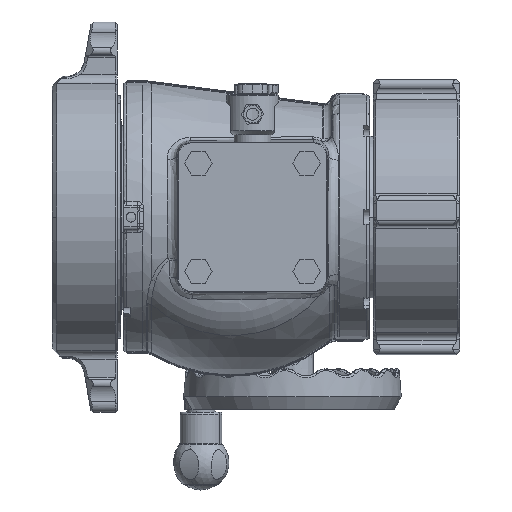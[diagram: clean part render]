
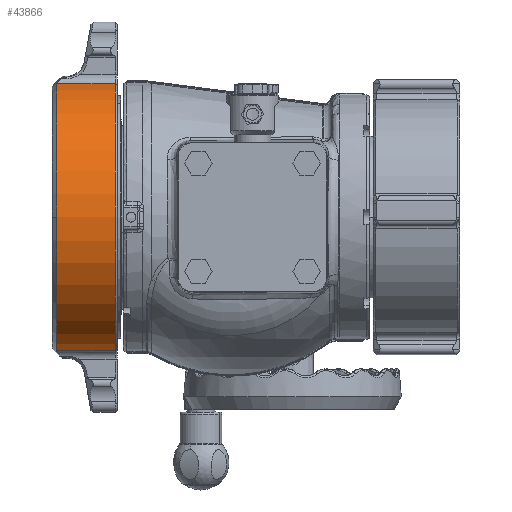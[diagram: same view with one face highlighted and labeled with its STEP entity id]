
A CAD part, front view. The second image highlights one B-rep face of the part: STEP entity #43866.
In plain terms, the highlighted cylindrical face has radius 98.425 mm (diameter 196.85 mm), a partial arc.
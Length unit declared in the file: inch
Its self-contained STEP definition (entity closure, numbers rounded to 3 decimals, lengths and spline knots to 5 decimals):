
#689 = EDGE_LOOP ( 'NONE', ( #72561, #72562, #72564, #72565, #72567 ) ) ;
#7265 = AXIS2_PLACEMENT_3D ( 'NONE', #86882, #86884, #86886 ) ;
#7722 = AXIS2_PLACEMENT_3D ( 'NONE', #31138, #31136, #31132 ) ;
#14951 = VERTEX_POINT ( 'NONE', #94375 ) ;
#14953 = VERTEX_POINT ( 'NONE', #94378 ) ;
#14955 = VERTEX_POINT ( 'NONE', #94382 ) ;
#15547 = VERTEX_POINT ( 'NONE', #94618 ) ;
#15550 = VERTEX_POINT ( 'NONE', #94620 ) ;
#31132 = DIRECTION ( 'NONE',  ( 0., 0., -1. ) ) ;
#31136 = DIRECTION ( 'NONE',  ( 1., 0., 0. ) ) ;
#31138 = CARTESIAN_POINT ( 'NONE',  ( -6.13215, -0.44219, 0. ) ) ;
#43699 = EDGE_CURVE ( 'NONE', #15550, #15547, #84390, .T. ) ;
#43866 = ADVANCED_FACE ( 'NONE', ( #84999 ), #85023, .T. ) ;
#45674 = EDGE_CURVE ( 'NONE', #14955, #14951, #119006, .T. ) ;
#45676 = EDGE_CURVE ( 'NONE', #14951, #14953, #119014, .T. ) ;
#45677 = EDGE_CURVE ( 'NONE', #15547, #14953, #118989, .T. ) ;
#45678 = EDGE_CURVE ( 'NONE', #14955, #15550, #119018, .T. ) ;
#72561 = ORIENTED_EDGE ( 'NONE', *, *, #45674, .T. ) ;
#72562 = ORIENTED_EDGE ( 'NONE', *, *, #45676, .T. ) ;
#72564 = ORIENTED_EDGE ( 'NONE', *, *, #45677, .F. ) ;
#72565 = ORIENTED_EDGE ( 'NONE', *, *, #43699, .F. ) ;
#72567 = ORIENTED_EDGE ( 'NONE', *, *, #45678, .F. ) ;
#84390 = CIRCLE ( 'NONE', #7265, 3.875 ) ;
#84999 = FACE_OUTER_BOUND ( 'NONE', #689, .T. ) ;
#85023 = CYLINDRICAL_SURFACE ( 'NONE', #7722, 3.875 ) ;
#86882 = CARTESIAN_POINT ( 'NONE',  ( -6.00715, -0.44219, 0. ) ) ;
#86884 = DIRECTION ( 'NONE',  ( -1., 0., 0. ) ) ;
#86886 = DIRECTION ( 'NONE',  ( 0., 1., 0. ) ) ;
#94375 = CARTESIAN_POINT ( 'NONE',  ( -4.33165, -1.13098, -3.81329 ) ) ;
#94378 = CARTESIAN_POINT ( 'NONE',  ( -4.33165, -1.13098, 3.81329 ) ) ;
#94382 = CARTESIAN_POINT ( 'NONE',  ( -6.00715, -1.13098, -3.81329 ) ) ;
#94618 = CARTESIAN_POINT ( 'NONE',  ( -6.00715, -1.13098, 3.81329 ) ) ;
#94620 = CARTESIAN_POINT ( 'NONE',  ( -6.00715, -4.31719, 0. ) ) ;
#100725 = DIRECTION ( 'NONE',  ( 1., 0., 0. ) ) ;
#100726 = CARTESIAN_POINT ( 'NONE',  ( -6.13215, -1.13098, -3.81329 ) ) ;
#100743 = CARTESIAN_POINT ( 'NONE',  ( -6.13215, -1.13098, 3.81329 ) ) ;
#100746 = DIRECTION ( 'NONE',  ( 1., 0., 0. ) ) ;
#100774 = CARTESIAN_POINT ( 'NONE',  ( -4.33165, -0.44219, 0. ) ) ;
#100776 = DIRECTION ( 'NONE',  ( -1., 0., 0. ) ) ;
#100778 = DIRECTION ( 'NONE',  ( 0., 0., -1. ) ) ;
#100786 = CARTESIAN_POINT ( 'NONE',  ( -6.00715, -0.44219, 0. ) ) ;
#100787 = DIRECTION ( 'NONE',  ( -1., 0., 0. ) ) ;
#100788 = DIRECTION ( 'NONE',  ( 0., 1., 0. ) ) ;
#113996 = AXIS2_PLACEMENT_3D ( 'NONE', #100774, #100776, #100778 ) ;
#113999 = AXIS2_PLACEMENT_3D ( 'NONE', #100786, #100787, #100788 ) ;
#118989 = LINE ( 'NONE', #100743, #119020 ) ;
#119006 = LINE ( 'NONE', #100726, #119012 ) ;
#119012 = VECTOR ( 'NONE', #100725, 39.37008 ) ;
#119014 = CIRCLE ( 'NONE', #113996, 3.875 ) ;
#119018 = CIRCLE ( 'NONE', #113999, 3.875 ) ;
#119020 = VECTOR ( 'NONE', #100746, 39.37008 ) ;
